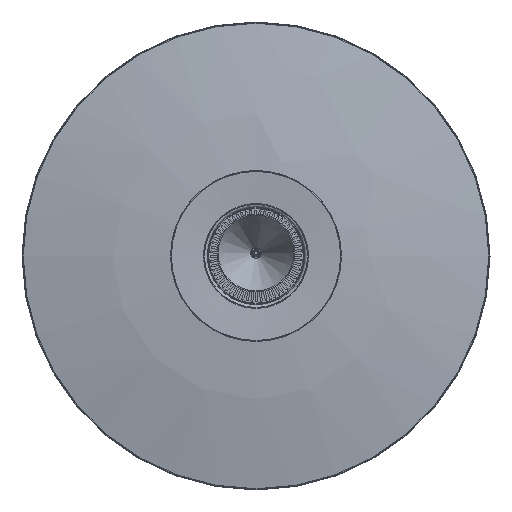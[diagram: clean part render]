
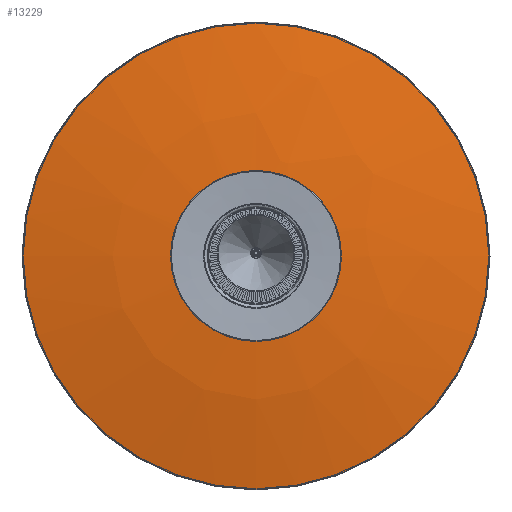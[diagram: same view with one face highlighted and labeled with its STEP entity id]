
A CAD part, top view. The second image highlights one B-rep face of the part: STEP entity #13229.
In plain terms, the highlighted free-form (B-spline) face has degree [2, 2] with [3, 9] control points.
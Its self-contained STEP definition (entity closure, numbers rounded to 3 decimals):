
#12=(
BOUNDED_SURFACE()
B_SPLINE_SURFACE(2,2,((#25092,#25093,#25094,#25095,#25096,#25097,#25098,
#25099,#25100),(#25101,#25102,#25103,#25104,#25105,#25106,#25107,#25108,
#25109),(#25110,#25111,#25112,#25113,#25114,#25115,#25116,#25117,#25118)),
 .UNSPECIFIED.,.F.,.T.,.F.)
B_SPLINE_SURFACE_WITH_KNOTS((3,3),(3,2,2,2,3),(-1.522,-1.365),
(-3.142,-1.571,0.,1.571,3.142),
 .UNSPECIFIED.)
GEOMETRIC_REPRESENTATION_ITEM()
RATIONAL_B_SPLINE_SURFACE(((1.,0.707,1.,0.707,1.,
0.707,1.,0.707,1.),(0.997,0.705,
0.997,0.705,0.997,0.705,
0.997,0.705,0.997),(1.,0.707,
1.,0.707,1.,0.707,1.,0.707,1.)))
REPRESENTATION_ITEM('')
SURFACE()
);
#832=CIRCLE('',#14496,300.02);
#833=CIRCLE('',#14497,1500.);
#834=CIRCLE('',#14498,67.451);
#2185=FACE_OUTER_BOUND('',#3083,.T.);
#3083=EDGE_LOOP('',(#12215,#12216,#12217,#12218));
#6461=VERTEX_POINT('',#25089);
#6462=VERTEX_POINT('',#25119);
#8379=EDGE_CURVE('',#6461,#6461,#832,.T.);
#8380=EDGE_CURVE('',#6461,#6462,#833,.T.);
#8381=EDGE_CURVE('',#6462,#6462,#834,.T.);
#12215=ORIENTED_EDGE('',*,*,#8379,.F.);
#12216=ORIENTED_EDGE('',*,*,#8380,.T.);
#12217=ORIENTED_EDGE('',*,*,#8381,.F.);
#12218=ORIENTED_EDGE('',*,*,#8380,.F.);
#13229=ADVANCED_FACE('',(#2185),#12,.F.);
#14496=AXIS2_PLACEMENT_3D('',#25091,#17917,#17918);
#14497=AXIS2_PLACEMENT_3D('',#25120,#17919,#17920);
#14498=AXIS2_PLACEMENT_3D('',#25121,#17921,#17922);
#17917=DIRECTION('center_axis',(0.,0.,-1.));
#17918=DIRECTION('ref_axis',(1.,0.,0.));
#17919=DIRECTION('center_axis',(0.,-1.,0.));
#17920=DIRECTION('ref_axis',(1.,0.,0.));
#17921=DIRECTION('center_axis',(0.,0.,1.));
#17922=DIRECTION('ref_axis',(1.,0.,0.));
#25089=CARTESIAN_POINT('',(300.02,0.,0.204));
#25091=CARTESIAN_POINT('Origin',(0.,0.,0.204));
#25092=CARTESIAN_POINT('Ctrl Pts',(67.451,0.,29.954));
#25093=CARTESIAN_POINT('Ctrl Pts',(67.451,-67.451,29.954));
#25094=CARTESIAN_POINT('Ctrl Pts',(0.,-67.451,
29.954));
#25095=CARTESIAN_POINT('Ctrl Pts',(-67.451,-67.451,29.954));
#25096=CARTESIAN_POINT('Ctrl Pts',(-67.451,0.,29.954));
#25097=CARTESIAN_POINT('Ctrl Pts',(-67.451,67.451,29.954));
#25098=CARTESIAN_POINT('Ctrl Pts',(0.,67.451,
29.954));
#25099=CARTESIAN_POINT('Ctrl Pts',(67.451,67.451,29.954));
#25100=CARTESIAN_POINT('Ctrl Pts',(67.451,0.,29.954));
#25101=CARTESIAN_POINT('Ctrl Pts',(184.902,0.,24.195));
#25102=CARTESIAN_POINT('Ctrl Pts',(184.902,-184.902,24.195));
#25103=CARTESIAN_POINT('Ctrl Pts',(0.,-184.902,
24.195));
#25104=CARTESIAN_POINT('Ctrl Pts',(-184.902,-184.902,
24.195));
#25105=CARTESIAN_POINT('Ctrl Pts',(-184.902,0.,24.195));
#25106=CARTESIAN_POINT('Ctrl Pts',(-184.902,184.902,24.195));
#25107=CARTESIAN_POINT('Ctrl Pts',(0.,184.902,
24.195));
#25108=CARTESIAN_POINT('Ctrl Pts',(184.902,184.902,24.195));
#25109=CARTESIAN_POINT('Ctrl Pts',(184.902,0.,24.195));
#25110=CARTESIAN_POINT('Ctrl Pts',(300.02,0.,0.204));
#25111=CARTESIAN_POINT('Ctrl Pts',(300.02,-300.02,0.204));
#25112=CARTESIAN_POINT('Ctrl Pts',(0.,-300.02,
0.204));
#25113=CARTESIAN_POINT('Ctrl Pts',(-300.02,-300.02,
0.204));
#25114=CARTESIAN_POINT('Ctrl Pts',(-300.02,0.,0.204));
#25115=CARTESIAN_POINT('Ctrl Pts',(-300.02,300.02,0.204));
#25116=CARTESIAN_POINT('Ctrl Pts',(0.,300.02,
0.204));
#25117=CARTESIAN_POINT('Ctrl Pts',(300.02,300.02,0.204));
#25118=CARTESIAN_POINT('Ctrl Pts',(300.02,0.,0.204));
#25119=CARTESIAN_POINT('',(67.451,0.,29.954));
#25120=CARTESIAN_POINT('Origin',(-6.004,0.,
-1468.247));
#25121=CARTESIAN_POINT('Origin',(0.,0.,29.954));
